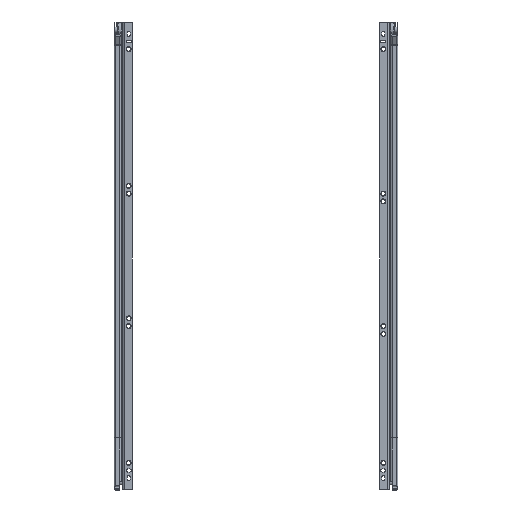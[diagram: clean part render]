
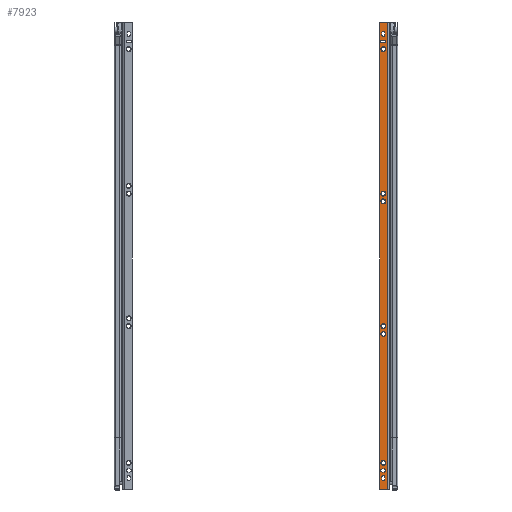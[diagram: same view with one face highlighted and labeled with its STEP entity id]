
A CAD part, front view. The second image highlights one B-rep face of the part: STEP entity #7923.
In plain terms, the highlighted planar face has unit normal (0, -1, 0.001).
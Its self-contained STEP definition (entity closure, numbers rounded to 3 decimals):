
#575=LINE('',#13282,#1105);
#576=LINE('',#13286,#1106);
#577=LINE('',#13288,#1107);
#578=LINE('',#13289,#1108);
#579=LINE('',#13300,#1109);
#580=LINE('',#13303,#1110);
#581=LINE('',#13308,#1111);
#582=LINE('',#13311,#1112);
#583=LINE('',#13316,#1113);
#584=LINE('',#13319,#1114);
#585=LINE('',#13324,#1115);
#586=LINE('',#13327,#1116);
#1105=VECTOR('',#10920,596.);
#1106=VECTOR('',#10923,8.);
#1107=VECTOR('',#10924,600.);
#1108=VECTOR('',#10925,8.);
#1109=VECTOR('',#10934,2.5);
#1110=VECTOR('',#10937,2.5);
#1111=VECTOR('',#10940,2.7);
#1112=VECTOR('',#10943,2.7);
#1113=VECTOR('',#10946,2.5);
#1114=VECTOR('',#10949,2.5);
#1115=VECTOR('',#10952,2.5);
#1116=VECTOR('',#10955,2.5);
#1314=PLANE('',#8771);
#1747=FACE_BOUND('',#2834,.T.);
#1748=FACE_BOUND('',#2835,.T.);
#1749=FACE_BOUND('',#2836,.T.);
#1750=FACE_BOUND('',#2837,.T.);
#1751=FACE_BOUND('',#2838,.T.);
#1752=FACE_BOUND('',#2839,.T.);
#1753=FACE_BOUND('',#2840,.T.);
#1754=FACE_BOUND('',#2841,.T.);
#1755=FACE_BOUND('',#2842,.T.);
#1756=FACE_BOUND('',#2843,.T.);
#2175=FACE_OUTER_BOUND('',#2833,.T.);
#2833=EDGE_LOOP('',(#6738,#6739,#6740,#6741,#6742,#6743));
#2834=EDGE_LOOP('',(#6744));
#2835=EDGE_LOOP('',(#6745));
#2836=EDGE_LOOP('',(#6746));
#2837=EDGE_LOOP('',(#6747,#6748,#6749,#6750));
#2838=EDGE_LOOP('',(#6751,#6752,#6753,#6754));
#2839=EDGE_LOOP('',(#6755,#6756,#6757,#6758));
#2840=EDGE_LOOP('',(#6759,#6760,#6761,#6762));
#2841=EDGE_LOOP('',(#6763));
#2842=EDGE_LOOP('',(#6764));
#2843=EDGE_LOOP('',(#6765));
#3302=CIRCLE('',#8770,3.2);
#3303=CIRCLE('',#8772,2.);
#3304=CIRCLE('',#8773,2.);
#3305=CIRCLE('',#8774,3.2);
#3306=CIRCLE('',#8775,3.2);
#3307=CIRCLE('',#8776,3.2);
#3308=CIRCLE('',#8777,2.);
#3309=CIRCLE('',#8778,2.);
#3310=CIRCLE('',#8779,1.9);
#3311=CIRCLE('',#8780,1.9);
#3312=CIRCLE('',#8781,2.);
#3313=CIRCLE('',#8782,2.);
#3314=CIRCLE('',#8783,2.);
#3315=CIRCLE('',#8784,2.);
#3316=CIRCLE('',#8785,3.2);
#3317=CIRCLE('',#8786,3.2);
#3945=VERTEX_POINT('',#13275);
#3946=VERTEX_POINT('',#13278);
#3947=VERTEX_POINT('',#13279);
#3948=VERTEX_POINT('',#13281);
#3949=VERTEX_POINT('',#13283);
#3950=VERTEX_POINT('',#13285);
#3951=VERTEX_POINT('',#13287);
#3952=VERTEX_POINT('',#13290);
#3953=VERTEX_POINT('',#13292);
#3954=VERTEX_POINT('',#13294);
#3955=VERTEX_POINT('',#13296);
#3956=VERTEX_POINT('',#13297);
#3957=VERTEX_POINT('',#13299);
#3958=VERTEX_POINT('',#13301);
#3959=VERTEX_POINT('',#13304);
#3960=VERTEX_POINT('',#13305);
#3961=VERTEX_POINT('',#13307);
#3962=VERTEX_POINT('',#13309);
#3963=VERTEX_POINT('',#13312);
#3964=VERTEX_POINT('',#13313);
#3965=VERTEX_POINT('',#13315);
#3966=VERTEX_POINT('',#13317);
#3967=VERTEX_POINT('',#13320);
#3968=VERTEX_POINT('',#13321);
#3969=VERTEX_POINT('',#13323);
#3970=VERTEX_POINT('',#13325);
#3971=VERTEX_POINT('',#13328);
#3972=VERTEX_POINT('',#13330);
#4899=EDGE_CURVE('',#3945,#3945,#3302,.T.);
#4900=EDGE_CURVE('',#3946,#3947,#3303,.T.);
#4901=EDGE_CURVE('',#3948,#3947,#575,.T.);
#4902=EDGE_CURVE('',#3948,#3949,#3304,.T.);
#4903=EDGE_CURVE('',#3950,#3949,#576,.T.);
#4904=EDGE_CURVE('',#3950,#3951,#577,.T.);
#4905=EDGE_CURVE('',#3951,#3946,#578,.T.);
#4906=EDGE_CURVE('',#3952,#3952,#3305,.T.);
#4907=EDGE_CURVE('',#3953,#3953,#3306,.T.);
#4908=EDGE_CURVE('',#3954,#3954,#3307,.T.);
#4909=EDGE_CURVE('',#3955,#3956,#3308,.T.);
#4910=EDGE_CURVE('',#3957,#3955,#579,.T.);
#4911=EDGE_CURVE('',#3958,#3957,#3309,.T.);
#4912=EDGE_CURVE('',#3956,#3958,#580,.T.);
#4913=EDGE_CURVE('',#3959,#3960,#3310,.T.);
#4914=EDGE_CURVE('',#3961,#3959,#581,.T.);
#4915=EDGE_CURVE('',#3962,#3961,#3311,.T.);
#4916=EDGE_CURVE('',#3960,#3962,#582,.T.);
#4917=EDGE_CURVE('',#3963,#3964,#3312,.T.);
#4918=EDGE_CURVE('',#3965,#3963,#583,.T.);
#4919=EDGE_CURVE('',#3966,#3965,#3313,.T.);
#4920=EDGE_CURVE('',#3964,#3966,#584,.T.);
#4921=EDGE_CURVE('',#3967,#3968,#3314,.T.);
#4922=EDGE_CURVE('',#3969,#3967,#585,.T.);
#4923=EDGE_CURVE('',#3970,#3969,#3315,.T.);
#4924=EDGE_CURVE('',#3968,#3970,#586,.T.);
#4925=EDGE_CURVE('',#3971,#3971,#3316,.T.);
#4926=EDGE_CURVE('',#3972,#3972,#3317,.T.);
#6738=ORIENTED_EDGE('',*,*,#4900,.T.);
#6739=ORIENTED_EDGE('',*,*,#4901,.F.);
#6740=ORIENTED_EDGE('',*,*,#4902,.T.);
#6741=ORIENTED_EDGE('',*,*,#4903,.F.);
#6742=ORIENTED_EDGE('',*,*,#4904,.T.);
#6743=ORIENTED_EDGE('',*,*,#4905,.T.);
#6744=ORIENTED_EDGE('',*,*,#4906,.T.);
#6745=ORIENTED_EDGE('',*,*,#4907,.T.);
#6746=ORIENTED_EDGE('',*,*,#4908,.T.);
#6747=ORIENTED_EDGE('',*,*,#4909,.F.);
#6748=ORIENTED_EDGE('',*,*,#4910,.F.);
#6749=ORIENTED_EDGE('',*,*,#4911,.F.);
#6750=ORIENTED_EDGE('',*,*,#4912,.F.);
#6751=ORIENTED_EDGE('',*,*,#4913,.F.);
#6752=ORIENTED_EDGE('',*,*,#4914,.F.);
#6753=ORIENTED_EDGE('',*,*,#4915,.F.);
#6754=ORIENTED_EDGE('',*,*,#4916,.F.);
#6755=ORIENTED_EDGE('',*,*,#4917,.F.);
#6756=ORIENTED_EDGE('',*,*,#4918,.F.);
#6757=ORIENTED_EDGE('',*,*,#4919,.F.);
#6758=ORIENTED_EDGE('',*,*,#4920,.F.);
#6759=ORIENTED_EDGE('',*,*,#4921,.F.);
#6760=ORIENTED_EDGE('',*,*,#4922,.F.);
#6761=ORIENTED_EDGE('',*,*,#4923,.F.);
#6762=ORIENTED_EDGE('',*,*,#4924,.F.);
#6763=ORIENTED_EDGE('',*,*,#4925,.T.);
#6764=ORIENTED_EDGE('',*,*,#4926,.T.);
#6765=ORIENTED_EDGE('',*,*,#4899,.T.);
#7923=ADVANCED_FACE('',(#2175,#1747,#1748,#1749,#1750,#1751,#1752,#1753,
#1754,#1755,#1756),#1314,.F.);
#8770=AXIS2_PLACEMENT_3D('',#13276,#10914,#10915);
#8771=AXIS2_PLACEMENT_3D('',#13277,#10916,#10917);
#8772=AXIS2_PLACEMENT_3D('',#13280,#10918,#10919);
#8773=AXIS2_PLACEMENT_3D('',#13284,#10921,#10922);
#8774=AXIS2_PLACEMENT_3D('',#13291,#10926,#10927);
#8775=AXIS2_PLACEMENT_3D('',#13293,#10928,#10929);
#8776=AXIS2_PLACEMENT_3D('',#13295,#10930,#10931);
#8777=AXIS2_PLACEMENT_3D('',#13298,#10932,#10933);
#8778=AXIS2_PLACEMENT_3D('',#13302,#10935,#10936);
#8779=AXIS2_PLACEMENT_3D('',#13306,#10938,#10939);
#8780=AXIS2_PLACEMENT_3D('',#13310,#10941,#10942);
#8781=AXIS2_PLACEMENT_3D('',#13314,#10944,#10945);
#8782=AXIS2_PLACEMENT_3D('',#13318,#10947,#10948);
#8783=AXIS2_PLACEMENT_3D('',#13322,#10950,#10951);
#8784=AXIS2_PLACEMENT_3D('',#13326,#10953,#10954);
#8785=AXIS2_PLACEMENT_3D('',#13329,#10956,#10957);
#8786=AXIS2_PLACEMENT_3D('',#13331,#10958,#10959);
#10914=DIRECTION('center_axis',(0.,1.,0.));
#10915=DIRECTION('ref_axis',(-1.,0.,0.));
#10916=DIRECTION('center_axis',(0.,1.,0.));
#10917=DIRECTION('ref_axis',(1.,0.,0.));
#10918=DIRECTION('center_axis',(0.,-1.,0.));
#10919=DIRECTION('ref_axis',(-0.707,0.,-0.707));
#10920=DIRECTION('',(-1.,0.,0.));
#10921=DIRECTION('center_axis',(0.,-1.,0.));
#10922=DIRECTION('ref_axis',(0.707,0.,-0.707));
#10923=DIRECTION('',(0.,0.,-1.));
#10924=DIRECTION('',(-1.,0.,0.));
#10925=DIRECTION('',(0.,0.,-1.));
#10926=DIRECTION('center_axis',(0.,1.,0.));
#10927=DIRECTION('ref_axis',(-1.,0.,0.));
#10928=DIRECTION('center_axis',(0.,1.,0.));
#10929=DIRECTION('ref_axis',(-1.,0.,0.));
#10930=DIRECTION('center_axis',(0.,1.,0.));
#10931=DIRECTION('ref_axis',(-1.,0.,0.));
#10932=DIRECTION('center_axis',(0.,-1.,0.));
#10933=DIRECTION('ref_axis',(0.,0.,-1.));
#10934=DIRECTION('',(1.,0.,0.));
#10935=DIRECTION('center_axis',(0.,-1.,0.));
#10936=DIRECTION('ref_axis',(0.,0.,1.));
#10937=DIRECTION('',(-1.,0.,0.));
#10938=DIRECTION('center_axis',(0.,-1.,0.));
#10939=DIRECTION('ref_axis',(1.,0.,0.));
#10940=DIRECTION('',(0.,0.,1.));
#10941=DIRECTION('center_axis',(0.,-1.,0.));
#10942=DIRECTION('ref_axis',(-1.,0.,0.));
#10943=DIRECTION('',(0.,0.,-1.));
#10944=DIRECTION('center_axis',(0.,-1.,0.));
#10945=DIRECTION('ref_axis',(1.,0.,0.));
#10946=DIRECTION('',(0.,0.,1.));
#10947=DIRECTION('center_axis',(0.,-1.,0.));
#10948=DIRECTION('ref_axis',(-1.,0.,0.));
#10949=DIRECTION('',(0.,0.,-1.));
#10950=DIRECTION('center_axis',(0.,-1.,0.));
#10951=DIRECTION('ref_axis',(0.,0.,-1.));
#10952=DIRECTION('',(1.,0.,0.));
#10953=DIRECTION('center_axis',(0.,-1.,0.));
#10954=DIRECTION('ref_axis',(0.,0.,1.));
#10955=DIRECTION('',(-1.,0.,0.));
#10956=DIRECTION('center_axis',(0.,1.,0.));
#10957=DIRECTION('ref_axis',(-1.,0.,0.));
#10958=DIRECTION('center_axis',(0.,1.,0.));
#10959=DIRECTION('ref_axis',(-1.,0.,0.));
#13275=CARTESIAN_POINT('',(-21.8,-12.,-7.4));
#13276=CARTESIAN_POINT('Origin',(-25.,-12.,-7.4));
#13277=CARTESIAN_POINT('Origin',(-590.,-12.,0.));
#13278=CARTESIAN_POINT('',(-590.,-12.,-10.));
#13279=CARTESIAN_POINT('',(-588.,-12.,-12.));
#13280=CARTESIAN_POINT('Origin',(-588.,-12.,-10.));
#13281=CARTESIAN_POINT('',(8.,-12.,-12.));
#13282=CARTESIAN_POINT('',(10.,-12.,-12.));
#13283=CARTESIAN_POINT('',(10.,-12.,-10.));
#13284=CARTESIAN_POINT('Origin',(8.,-12.,-10.));
#13285=CARTESIAN_POINT('',(10.,-12.,-2.));
#13286=CARTESIAN_POINT('',(10.,-12.,0.));
#13287=CARTESIAN_POINT('',(-590.,-12.,-2.));
#13288=CARTESIAN_POINT('',(-439.597,-12.,-2.));
#13289=CARTESIAN_POINT('',(-590.,-12.,0.));
#13290=CARTESIAN_POINT('',(-186.8,-12.,-7.4));
#13291=CARTESIAN_POINT('Origin',(-190.,-12.,-7.4));
#13292=CARTESIAN_POINT('',(-356.8,-12.,-7.4));
#13293=CARTESIAN_POINT('Origin',(-360.,-12.,-7.4));
#13294=CARTESIAN_POINT('',(-551.8,-12.,-7.4));
#13295=CARTESIAN_POINT('Origin',(-555.,-12.,-7.4));
#13296=CARTESIAN_POINT('',(-573.75,-12.,-9.4));
#13297=CARTESIAN_POINT('',(-573.75,-12.,-5.4));
#13298=CARTESIAN_POINT('Origin',(-573.75,-12.,-7.4));
#13299=CARTESIAN_POINT('',(-576.25,-12.,-9.4));
#13300=CARTESIAN_POINT('',(-581.875,-12.,-9.4));
#13301=CARTESIAN_POINT('',(-576.25,-12.,-5.4));
#13302=CARTESIAN_POINT('Origin',(-576.25,-12.,-7.4));
#13303=CARTESIAN_POINT('',(-583.125,-12.,-5.4));
#13304=CARTESIAN_POINT('',(-563.1,-12.,-6.05));
#13305=CARTESIAN_POINT('',(-566.9,-12.,-6.05));
#13306=CARTESIAN_POINT('Origin',(-565.,-12.,-6.05));
#13307=CARTESIAN_POINT('',(-563.1,-12.,-8.75));
#13308=CARTESIAN_POINT('',(-563.1,-12.,-3.025));
#13309=CARTESIAN_POINT('',(-566.9,-12.,-8.75));
#13310=CARTESIAN_POINT('Origin',(-565.,-12.,-8.75));
#13311=CARTESIAN_POINT('',(-566.9,-12.,-4.375));
#13312=CARTESIAN_POINT('',(-13.,-12.,-6.15));
#13313=CARTESIAN_POINT('',(-17.,-12.,-6.15));
#13314=CARTESIAN_POINT('Origin',(-15.,-12.,-6.15));
#13315=CARTESIAN_POINT('',(-13.,-12.,-8.65));
#13316=CARTESIAN_POINT('',(-13.,-12.,-3.075));
#13317=CARTESIAN_POINT('',(-17.,-12.,-8.65));
#13318=CARTESIAN_POINT('Origin',(-15.,-12.,-8.65));
#13319=CARTESIAN_POINT('',(-17.,-12.,-4.325));
#13320=CARTESIAN_POINT('',(-3.75,-12.,-9.4));
#13321=CARTESIAN_POINT('',(-3.75,-12.,-5.4));
#13322=CARTESIAN_POINT('Origin',(-3.75,-12.,-7.4));
#13323=CARTESIAN_POINT('',(-6.25,-12.,-9.4));
#13324=CARTESIAN_POINT('',(-296.875,-12.,-9.4));
#13325=CARTESIAN_POINT('',(-6.25,-12.,-5.4));
#13326=CARTESIAN_POINT('Origin',(-6.25,-12.,-7.4));
#13327=CARTESIAN_POINT('',(-298.125,-12.,-5.4));
#13328=CARTESIAN_POINT('',(-366.8,-12.,-7.4));
#13329=CARTESIAN_POINT('Origin',(-370.,-12.,-7.4));
#13330=CARTESIAN_POINT('',(-196.8,-12.,-7.4));
#13331=CARTESIAN_POINT('Origin',(-200.,-12.,-7.4));
